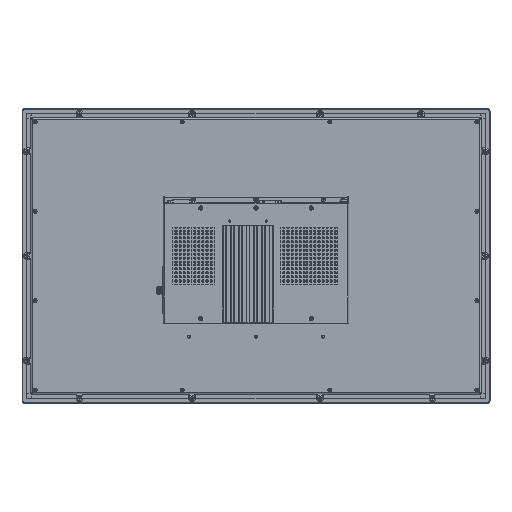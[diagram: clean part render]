
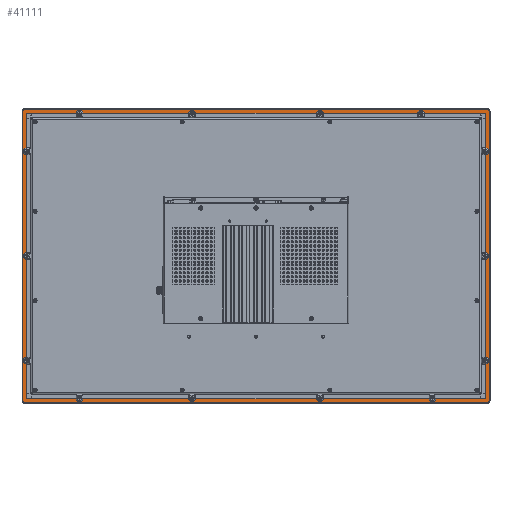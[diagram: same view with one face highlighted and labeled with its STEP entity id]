
A CAD part, front view. The second image highlights one B-rep face of the part: STEP entity #41111.
In plain terms, the highlighted planar face has unit normal (0, -1, 0).
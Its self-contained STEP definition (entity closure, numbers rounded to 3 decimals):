
#39120=CARTESIAN_POINT('',(316.75,-0.95,-193.));
#39121=DIRECTION('',(0.,1.,0.));
#39122=DIRECTION('',(1.,0.,0.));
#39123=AXIS2_PLACEMENT_3D('',#39120,#39121,#39122);
#39125=DIRECTION('',(-1.,0.,0.));
#39126=VECTOR('',#39125,633.5);
#39127=CARTESIAN_POINT('',(316.75,-0.95,-195.));
#39128=LINE('',#39127,#39126);
#39129=CARTESIAN_POINT('',(-316.75,-0.95,-193.));
#39130=DIRECTION('',(0.,1.,0.));
#39131=DIRECTION('',(0.,0.,-1.));
#39132=AXIS2_PLACEMENT_3D('',#39129,#39130,#39131);
#39134=DIRECTION('',(0.,0.,1.));
#39135=VECTOR('',#39134,396.);
#39136=CARTESIAN_POINT('',(-318.75,-0.95,-193.));
#39137=LINE('',#39136,#39135);
#39138=CARTESIAN_POINT('',(-316.75,-0.95,203.));
#39139=DIRECTION('',(0.,1.,0.));
#39140=DIRECTION('',(-1.,0.,0.));
#39141=AXIS2_PLACEMENT_3D('',#39138,#39139,#39140);
#39143=DIRECTION('',(1.,0.,0.));
#39144=VECTOR('',#39143,633.5);
#39145=CARTESIAN_POINT('',(-316.75,-0.95,205.));
#39146=LINE('',#39145,#39144);
#39147=CARTESIAN_POINT('',(316.75,-0.95,203.));
#39148=DIRECTION('',(0.,1.,0.));
#39149=DIRECTION('',(0.,0.,1.));
#39150=AXIS2_PLACEMENT_3D('',#39147,#39148,#39149);
#39152=DIRECTION('',(0.,0.,-1.));
#39153=VECTOR('',#39152,396.);
#39154=CARTESIAN_POINT('',(318.75,-0.95,203.));
#39155=LINE('',#39154,#39153);
#39156=CARTESIAN_POINT('',(312.75,-0.95,-189.));
#39157=DIRECTION('',(0.,-1.,0.));
#39158=DIRECTION('',(0.,0.,-1.));
#39159=AXIS2_PLACEMENT_3D('',#39156,#39157,#39158);
#39161=DIRECTION('',(0.,0.,1.));
#39162=VECTOR('',#39161,388.);
#39163=CARTESIAN_POINT('',(313.75,-0.95,-189.));
#39164=LINE('',#39163,#39162);
#39165=CARTESIAN_POINT('',(312.75,-0.95,199.));
#39166=DIRECTION('',(0.,-1.,0.));
#39167=DIRECTION('',(1.,0.,0.));
#39168=AXIS2_PLACEMENT_3D('',#39165,#39166,#39167);
#39170=DIRECTION('',(-1.,0.,0.));
#39171=VECTOR('',#39170,625.5);
#39172=CARTESIAN_POINT('',(312.75,-0.95,200.));
#39173=LINE('',#39172,#39171);
#39174=CARTESIAN_POINT('',(-312.75,-0.95,199.));
#39175=DIRECTION('',(0.,-1.,0.));
#39176=DIRECTION('',(0.,0.,1.));
#39177=AXIS2_PLACEMENT_3D('',#39174,#39175,#39176);
#39179=DIRECTION('',(0.,0.,-1.));
#39180=VECTOR('',#39179,388.);
#39181=CARTESIAN_POINT('',(-313.75,-0.95,199.));
#39182=LINE('',#39181,#39180);
#39183=CARTESIAN_POINT('',(-312.75,-0.95,-189.));
#39184=DIRECTION('',(0.,-1.,0.));
#39185=DIRECTION('',(-1.,0.,0.));
#39186=AXIS2_PLACEMENT_3D('',#39183,#39184,#39185);
#39188=DIRECTION('',(1.,0.,0.));
#39189=VECTOR('',#39188,625.5);
#39190=CARTESIAN_POINT('',(-312.75,-0.95,-190.));
#39191=LINE('',#39190,#39189);
#40084=CARTESIAN_POINT('',(318.75,-0.95,-193.));
#40085=CARTESIAN_POINT('',(316.75,-0.95,-195.));
#40086=VERTEX_POINT('',#40084);
#40087=VERTEX_POINT('',#40085);
#40088=CARTESIAN_POINT('',(318.75,-0.95,203.));
#40089=VERTEX_POINT('',#40088);
#40090=CARTESIAN_POINT('',(316.75,-0.95,205.));
#40091=VERTEX_POINT('',#40090);
#40092=CARTESIAN_POINT('',(-316.75,-0.95,205.));
#40093=VERTEX_POINT('',#40092);
#40094=CARTESIAN_POINT('',(-318.75,-0.95,203.));
#40095=VERTEX_POINT('',#40094);
#40096=CARTESIAN_POINT('',(-318.75,-0.95,-193.));
#40097=VERTEX_POINT('',#40096);
#40098=CARTESIAN_POINT('',(-316.75,-0.95,-195.));
#40099=VERTEX_POINT('',#40098);
#40204=CARTESIAN_POINT('',(312.75,-0.95,-190.));
#40205=CARTESIAN_POINT('',(313.75,-0.95,-189.));
#40206=VERTEX_POINT('',#40204);
#40207=VERTEX_POINT('',#40205);
#40208=CARTESIAN_POINT('',(313.75,-0.95,199.));
#40209=VERTEX_POINT('',#40208);
#40210=CARTESIAN_POINT('',(312.75,-0.95,200.));
#40211=VERTEX_POINT('',#40210);
#40212=CARTESIAN_POINT('',(-312.75,-0.95,200.));
#40213=VERTEX_POINT('',#40212);
#40214=CARTESIAN_POINT('',(-313.75,-0.95,199.));
#40215=VERTEX_POINT('',#40214);
#40216=CARTESIAN_POINT('',(-313.75,-0.95,-189.));
#40217=VERTEX_POINT('',#40216);
#40218=CARTESIAN_POINT('',(-312.75,-0.95,-190.));
#40219=VERTEX_POINT('',#40218);
#41070=CARTESIAN_POINT('',(0.,-0.95,1.5));
#41071=DIRECTION('',(0.,-1.,0.));
#41072=DIRECTION('',(-1.,0.,0.));
#41073=AXIS2_PLACEMENT_3D('',#41070,#41071,#41072);
#41074=PLANE('',#41073);
#41076=ORIENTED_EDGE('',*,*,#41075,.T.);
#41078=ORIENTED_EDGE('',*,*,#41077,.T.);
#41080=ORIENTED_EDGE('',*,*,#41079,.T.);
#41082=ORIENTED_EDGE('',*,*,#41081,.T.);
#41084=ORIENTED_EDGE('',*,*,#41083,.T.);
#41086=ORIENTED_EDGE('',*,*,#41085,.T.);
#41088=ORIENTED_EDGE('',*,*,#41087,.T.);
#41090=ORIENTED_EDGE('',*,*,#41089,.T.);
#41091=EDGE_LOOP('',(#41076,#41078,#41080,#41082,#41084,#41086,#41088,#41090));
#41092=FACE_OUTER_BOUND('',#41091,.F.);
#41094=ORIENTED_EDGE('',*,*,#41093,.T.);
#41096=ORIENTED_EDGE('',*,*,#41095,.T.);
#41098=ORIENTED_EDGE('',*,*,#41097,.T.);
#41100=ORIENTED_EDGE('',*,*,#41099,.T.);
#41102=ORIENTED_EDGE('',*,*,#41101,.T.);
#41104=ORIENTED_EDGE('',*,*,#41103,.T.);
#41106=ORIENTED_EDGE('',*,*,#41105,.T.);
#41108=ORIENTED_EDGE('',*,*,#41107,.T.);
#41109=EDGE_LOOP('',(#41094,#41096,#41098,#41100,#41102,#41104,#41106,#41108));
#41110=FACE_BOUND('',#41109,.F.);
#39124=CIRCLE('',#39123,2.);
#39133=CIRCLE('',#39132,2.);
#39142=CIRCLE('',#39141,2.);
#39151=CIRCLE('',#39150,2.);
#39160=CIRCLE('',#39159,1.);
#39169=CIRCLE('',#39168,1.);
#39178=CIRCLE('',#39177,1.);
#39187=CIRCLE('',#39186,1.);
#41075=EDGE_CURVE('',#40086,#40087,#39124,.T.);
#41077=EDGE_CURVE('',#40087,#40099,#39128,.T.);
#41079=EDGE_CURVE('',#40099,#40097,#39133,.T.);
#41081=EDGE_CURVE('',#40097,#40095,#39137,.T.);
#41083=EDGE_CURVE('',#40095,#40093,#39142,.T.);
#41085=EDGE_CURVE('',#40093,#40091,#39146,.T.);
#41087=EDGE_CURVE('',#40091,#40089,#39151,.T.);
#41089=EDGE_CURVE('',#40089,#40086,#39155,.T.);
#41093=EDGE_CURVE('',#40206,#40207,#39160,.T.);
#41095=EDGE_CURVE('',#40207,#40209,#39164,.T.);
#41097=EDGE_CURVE('',#40209,#40211,#39169,.T.);
#41099=EDGE_CURVE('',#40211,#40213,#39173,.T.);
#41101=EDGE_CURVE('',#40213,#40215,#39178,.T.);
#41103=EDGE_CURVE('',#40215,#40217,#39182,.T.);
#41105=EDGE_CURVE('',#40217,#40219,#39187,.T.);
#41107=EDGE_CURVE('',#40219,#40206,#39191,.T.);
#41111=ADVANCED_FACE('',(#41092,#41110),#41074,.T.);
